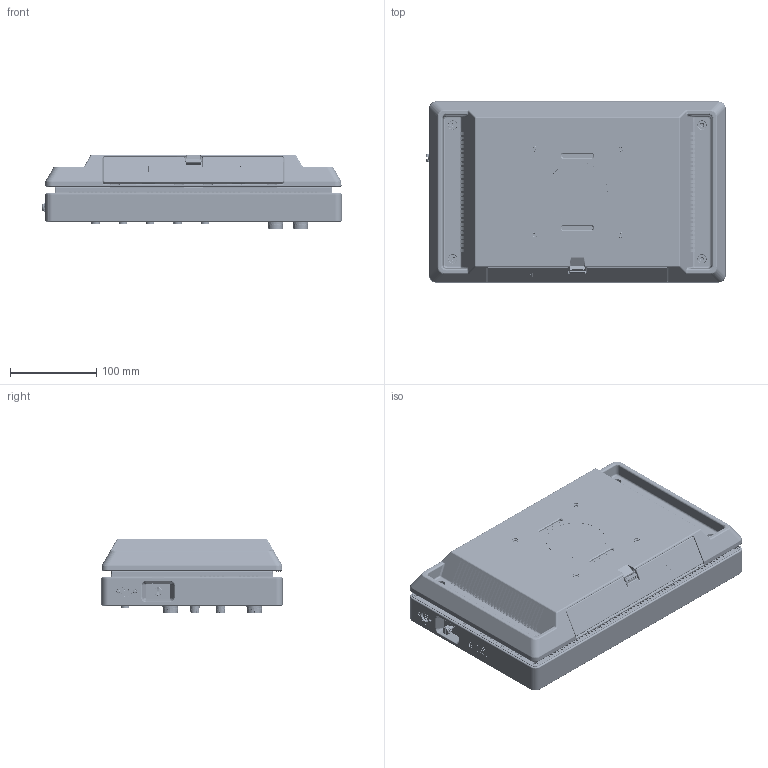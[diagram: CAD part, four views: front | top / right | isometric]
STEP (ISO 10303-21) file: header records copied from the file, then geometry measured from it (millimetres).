
FILE_DESCRIPTION((''),'2;1');
FILE_NAME('2-SERIES_WITH_BP_STEP2','2024-05-24T14:48:33',('nclayton'),(''),'CREO PARAMETRIC BY PTC INC, 2022284','CREO PARAMETRIC BY PTC INC, 2022284','');
FILE_SCHEMA(('CONFIG_CONTROL_DESIGN','SHAPE_APPEARANCE_LAYERS_GROUPS'));
Products named in the file (1): 2-SERIES_WITH_BP_STEP2
Bounding box: 347.15 x 210 x 86.78 mm (x, y, z)
Volume: 109754.2 mm3; surface area: 658802.3 mm2
Topology: 25 solids, 59 shells, 10624 faces, 29125 edges, 18894 vertices
Faces by surface type: plane 4931, cylinder 3080, cone 954, torus 640, bspline 473, extrusion 320, sphere 226
Entity records: 466778 total; most frequent: CARTESIAN_POINT 122391, ORIENTED_EDGE 57832, DIRECTION 46894, EDGE_CURVE 29102, PRESENTATION_STYLE_ASSIGNMENT 22268, VERTEX_POINT 18896, STYLED_ITEM 17879, CURVE_STYLE 17073
